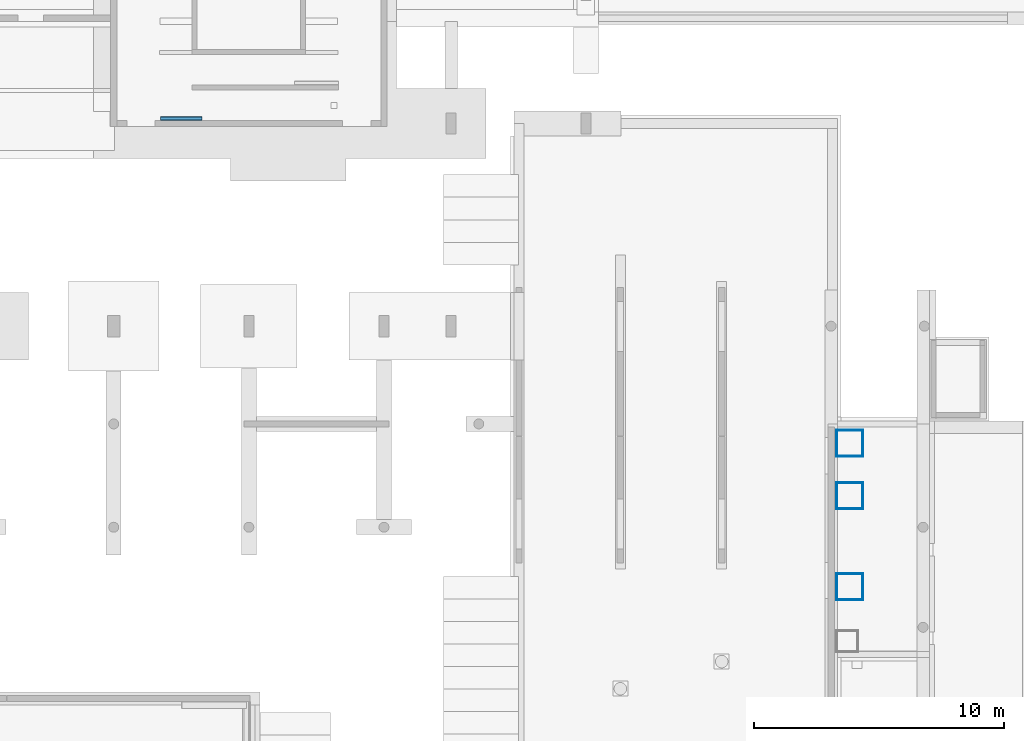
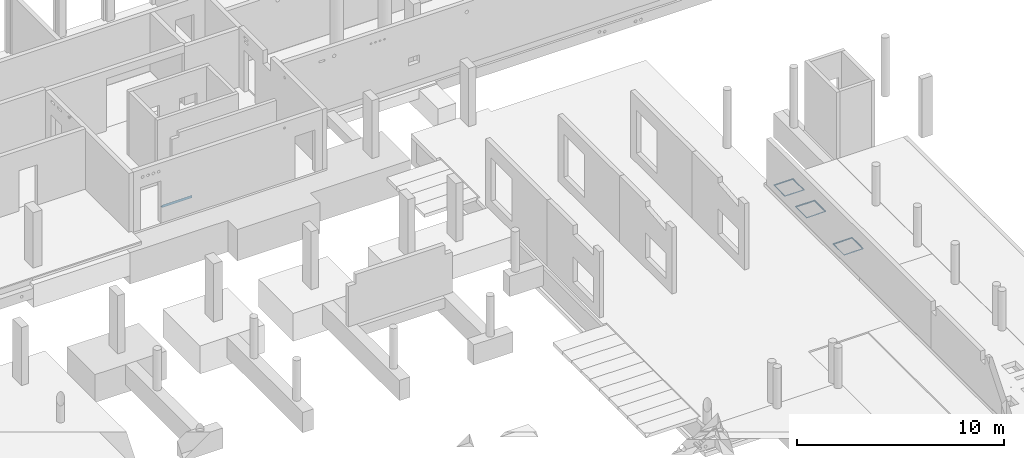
# One storey, part 18 of 60: 13 beams.
"""IFC2X3 building model written with IfcOpenShell, lengths in millimetres."""

from ifc_helpers import new_model, entity, si_unit, converted_unit, derived_unit, direction, frame, frame_2d, origin, place, context, subcontext, project, spatial, polyline, circle_curve, parameter, trimmed, segment, composite_curve, outline, extrude, clip, halfspace, material, type_object, element, save


model = new_model("IFC2X3")

# Units and contexts
model_context = context("Model", 3, precision=0.01, world=origin(), true_north=direction((6.12303176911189e-17, 1.0)))
body_context = subcontext(model_context, "Body", "Model", "MODEL_VIEW")
ifc_project = project(units=[si_unit("LENGTHUNIT", "METRE", prefix="MILLI"), si_unit("AREAUNIT", "SQUARE_METRE"), si_unit("VOLUMEUNIT", "CUBIC_METRE"), converted_unit("PLANEANGLEUNIT", "DEGREE", entity("IfcRatioMeasure", 0.0174532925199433), si_unit("PLANEANGLEUNIT", "RADIAN"), dimensions=[0, 0, 0, 0, 0, 0, 0]), si_unit("MASSUNIT", "GRAM", prefix="KILO"), derived_unit("MASSDENSITYUNIT", [(si_unit("MASSUNIT", "GRAM", prefix="KILO"), 1), (si_unit("LENGTHUNIT", "METRE"), -3)]), si_unit("TIMEUNIT", "SECOND"), si_unit("FREQUENCYUNIT", "HERTZ"), si_unit("THERMODYNAMICTEMPERATUREUNIT", "DEGREE_CELSIUS"), derived_unit("THERMALTRANSMITTANCEUNIT", [(si_unit("MASSUNIT", "GRAM", prefix="KILO"), 1), (si_unit("THERMODYNAMICTEMPERATUREUNIT", "KELVIN"), -1), (si_unit("TIMEUNIT", "SECOND"), -3)]), derived_unit("VOLUMETRICFLOWRATEUNIT", [(si_unit("LENGTHUNIT", "METRE"), 3), (si_unit("TIMEUNIT", "SECOND"), -1)]), si_unit("ELECTRICCURRENTUNIT", "AMPERE"), si_unit("ELECTRICVOLTAGEUNIT", "VOLT"), si_unit("POWERUNIT", "WATT"), si_unit("FORCEUNIT", "NEWTON", prefix="KILO"), si_unit("ILLUMINANCEUNIT", "LUX"), si_unit("LUMINOUSFLUXUNIT", "LUMEN"), si_unit("LUMINOUSINTENSITYUNIT", "CANDELA"), derived_unit("USERDEFINED", [(si_unit("MASSUNIT", "GRAM", prefix="KILO"), -1), (si_unit("LENGTHUNIT", "METRE"), -2), (si_unit("TIMEUNIT", "SECOND"), 3), (si_unit("LUMINOUSFLUXUNIT", "LUMEN"), 1)]), derived_unit("LINEARVELOCITYUNIT", [(si_unit("LENGTHUNIT", "METRE"), 1), (si_unit("TIMEUNIT", "SECOND"), -1)]), si_unit("PRESSUREUNIT", "PASCAL"), derived_unit("USERDEFINED", [(si_unit("LENGTHUNIT", "METRE"), -2), (si_unit("MASSUNIT", "GRAM", prefix="KILO"), 1), (si_unit("TIMEUNIT", "SECOND"), -2)])], contexts=[model_context])

# Site, building, storey
site_placement = place(None, origin())
site = spatial("IfcSite", under=ifc_project, at=site_placement, Name="Default", CompositionType="ELEMENT")
building_placement = place(site_placement, origin())
building = spatial("IfcBuilding", under=site, at=building_placement, Name="niet gebruiken", CompositionType="ELEMENT")
storey_placement = place(building_placement, origin())
storey = spatial("IfcBuildingStorey", under=building, at=storey_placement, Name="00 begane grond", CompositionType="ELEMENT", Elevation=0.0)

# Beams
ifc_material = material(Name="NLRS_h2_staal")
beam_type_1 = type_object("IfcBeamType", Name="NLRS_28.11_SF_WPB_stalen ligger hoekprofiel gelijkzijdig_gen:ligger gelijzijdig hoekprofiel LEQU_150x150x15", PredefinedType="BEAM")
beam_1_placement = place(storey_placement, frame((88272.5032059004, 37148.5000000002, 600.909090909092)))
element("IfcBeam", 1, at=beam_1_placement, inside=storey, type_object=beam_type_1, material=ifc_material, Name="NLRS_28.11_SF_WPB_stalen ligger hoekprofiel gelijkzijdig_gen:ligger gelijzijdig hoekprofiel LEQU_150x150x15", ObjectType="NLRS_28.11_SF_WPB_stalen ligger hoekprofiel gelijkzijdig_gen:ligger gelijzijdig hoekprofiel LEQU_150x150x15", context=body_context, shape_type="SweptSolid", body=[
    extrude(outline(composite_curve([segment(polyline([(-93.3333333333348, -56.6666666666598), (56.6666666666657, -56.6666666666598)]), True, "CONTINUOUS"), segment(polyline([(56.6666666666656, -56.6666666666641), (56.6666666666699, 93.3333333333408)]), True, "CONTINUOUS"), segment(polyline([(56.6666666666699, 93.3333333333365), (49.6666666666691, 93.333333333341)]), True, "CONTINUOUS"), segment(trimmed(circle_curve(frame_2d((49.666666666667, 85.3333333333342), x_axis=(0.0, 1.0)), 7.99999999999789), [parameter(0.0)], [parameter(90.0000000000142)], True, "PARAMETER"), True, "CONTINUOUS"), segment(polyline([(41.6666666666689, 85.3333333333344), (41.6666666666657, -25.666666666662)]), True, "CONTINUOUS"), segment(trimmed(circle_curve(frame_2d((25.6666666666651, -25.6666666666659), x_axis=(1.0, 0.0)), 16.0000000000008), [parameter(270.000000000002)], [parameter(0.0)], True, "PARAMETER"), False, "CONTINUOUS"), segment(polyline([(25.6666666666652, -41.6666666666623), (-85.3333333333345, -41.6666666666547)]), True, "CONTINUOUS"), segment(trimmed(circle_curve(frame_2d((-85.3333333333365, -49.6666666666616), x_axis=(0.0, 1.0)), 7.99999999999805), [parameter(0.0)], [parameter(90.0000000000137)], True, "PARAMETER"), True, "CONTINUOUS"), segment(polyline([(-93.3333333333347, -49.6666666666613), (-93.3333333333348, -56.6666666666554)]), True, "CONTINUOUS")], self_intersect=False)), frame((0.0, 14.1666666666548, 56.6666666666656), z_axis=(1.0, 0.0, 0.0), x_axis=(0.0, 0.0, -1.0)), (0.0, 0.0, 1.0), 1660.0),
])
beam_type_2 = type_object("IfcBeamType", Name="NLRS_28.11_SF_WPB_stalen ligger hoekprofiel gelijkzijdig_gen:ligger gelijzijdig hoekprofiel LEQU_40x40x4", PredefinedType="BEAM")
beam_2_placement = place(storey_placement, frame((115296.2, 19061.0, 0.0), z_axis=(0.0, 0.0, 1.0), x_axis=(0.0, -1.0, 0.0)))
element("IfcBeam", 2, at=beam_2_placement, inside=storey, type_object=beam_type_2, material=ifc_material, Name="NLRS_28.11_SF_WPB_stalen ligger hoekprofiel gelijkzijdig_gen:ligger gelijzijdig hoekprofiel LEQU_40x40x4", ObjectType="NLRS_28.11_SF_WPB_stalen ligger hoekprofiel gelijkzijdig_gen:ligger gelijzijdig hoekprofiel LEQU_40x40x4", context=body_context, shape_type="Clipping", body=[
    clip(clip(extrude(outline(composite_curve([segment(polyline([(-24.8888888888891, -15.1111111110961), (15.1111111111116, -15.1111111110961)]), True, "CONTINUOUS"), segment(polyline([(15.1111111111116, -15.1111111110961), (15.1111111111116, 24.8888888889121)]), True, "CONTINUOUS"), segment(polyline([(15.1111111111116, 24.8888888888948), (14.1111111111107, 24.8888888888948)]), True, "CONTINUOUS"), segment(trimmed(circle_curve(frame_2d((14.1111111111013, 21.8888888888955), x_axis=(0.0, 1.0)), 2.99999999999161), [parameter(0.0)], [parameter(90.0000000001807)], True, "PARAMETER"), True, "CONTINUOUS"), segment(polyline([(11.1111111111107, 21.8888888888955), (11.1111111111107, -5.1111111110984)]), True, "CONTINUOUS"), segment(trimmed(circle_curve(frame_2d((5.11111111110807, -5.1111111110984), x_axis=(1.0, 0.0)), 6.00000000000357), [parameter(270.000000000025)], [parameter(0.0)], True, "PARAMETER"), False, "CONTINUOUS"), segment(polyline([(5.11111111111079, -11.111111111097), (-21.888888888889, -11.111111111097)]), True, "CONTINUOUS"), segment(trimmed(circle_curve(frame_2d((-21.8888888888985, -14.1111111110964), x_axis=(0.0, 1.0)), 2.99999999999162), [parameter(0.0)], [parameter(90.0000000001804)], True, "PARAMETER"), True, "CONTINUOUS"), segment(polyline([(-24.8888888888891, -14.1111111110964), (-24.8888888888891, -15.1111111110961)]), True, "CONTINUOUS")], self_intersect=False)), frame((45.0, 3.91111111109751, -24.8888888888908), z_axis=(1.0, 0.0, 0.0), x_axis=(0.0, 0.0, -1.0)), (0.0, 0.0, 1.0), 1079.99999999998), halfspace(frame((1125.0, -11.2000000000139, 1000.0), z_axis=(0.707106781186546, 0.707106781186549, 0.0), x_axis=(0.707106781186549, -0.707106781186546, 0.0)), False)), halfspace(frame((45.0, -11.1999999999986, 1000.0), z_axis=(-0.707106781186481, 0.707106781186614, 0.0), x_axis=(-0.707106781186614, -0.707106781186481, 0.0)), False)),
])
beam_3_placement = place(storey_placement, frame((116353.8, 19061.0, 0.0), z_axis=(0.0, 0.0, 1.0), x_axis=(0.0, -1.0, 0.0)))
element("IfcBeam", 3, at=beam_3_placement, inside=storey, type_object=beam_type_2, material=ifc_material, Name="NLRS_28.11_SF_WPB_stalen ligger hoekprofiel gelijkzijdig_gen:ligger gelijzijdig hoekprofiel LEQU_40x40x4", ObjectType="NLRS_28.11_SF_WPB_stalen ligger hoekprofiel gelijkzijdig_gen:ligger gelijzijdig hoekprofiel LEQU_40x40x4", context=body_context, shape_type="Clipping", body=[
    clip(clip(extrude(outline(composite_curve([segment(polyline([(14.1111111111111, -24.8888888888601), (15.111111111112, -24.8888888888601)]), True, "CONTINUOUS"), segment(polyline([(15.1111111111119, -24.8888888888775), (15.1111111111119, 15.1111111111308)]), True, "CONTINUOUS"), segment(polyline([(15.111111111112, 15.1111111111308), (-24.8888888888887, 15.1111111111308)]), True, "CONTINUOUS"), segment(polyline([(-24.8888888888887, 15.1111111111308), (-24.8888888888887, 14.111111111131)]), True, "CONTINUOUS"), segment(trimmed(circle_curve(frame_2d((-21.8888888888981, 14.111111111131), x_axis=(-1.0, 0.0)), 2.99999999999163), [parameter(0.0)], [parameter(90.0000000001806)], True, "PARAMETER"), True, "CONTINUOUS"), segment(polyline([(-21.8888888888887, 11.1111111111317), (5.11111111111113, 11.1111111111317)]), True, "CONTINUOUS"), segment(trimmed(circle_curve(frame_2d((5.11111111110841, 5.11111111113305), x_axis=(0.0, 1.0)), 6.00000000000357), [parameter(270.000000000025)], [parameter(0.0)], True, "PARAMETER"), False, "CONTINUOUS"), segment(polyline([(11.1111111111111, 5.11111111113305), (11.1111111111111, -21.8888888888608)]), True, "CONTINUOUS"), segment(trimmed(circle_curve(frame_2d((14.1111111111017, -21.8888888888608), x_axis=(-1.0, 0.0)), 2.99999999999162), [parameter(0.0)], [parameter(90.0000000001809)], True, "PARAMETER"), True, "CONTINUOUS")], self_intersect=False)), frame((45.0, -3.91111111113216, -24.8888888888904), z_axis=(1.0, 0.0, 0.0), x_axis=(0.0, 0.0, -1.0)), (0.0, 0.0, 1.0), 1080.00000000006), halfspace(frame((45.0, 11.1999999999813, 1000.0), z_axis=(-0.707106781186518, -0.707106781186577, 0.0), x_axis=(-0.707106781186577, 0.707106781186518, 0.0)), False)), halfspace(frame((1125.0, 11.1999999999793, 1000.0), z_axis=(0.707106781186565, -0.70710678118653, 0.0), x_axis=(0.70710678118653, 0.707106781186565, 0.0)), False)),
])
beam_4_placement = place(storey_placement, frame((115251.216061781, 19004.7999999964, 0.0)))
element("IfcBeam", 4, at=beam_4_placement, inside=storey, type_object=beam_type_2, material=ifc_material, Name="NLRS_28.11_SF_WPB_stalen ligger hoekprofiel gelijkzijdig_gen:ligger gelijzijdig hoekprofiel LEQU_40x40x4", ObjectType="NLRS_28.11_SF_WPB_stalen ligger hoekprofiel gelijkzijdig_gen:ligger gelijzijdig hoekprofiel LEQU_40x40x4", context=body_context, shape_type="Clipping", body=[
    clip(clip(extrude(outline(composite_curve([segment(polyline([(14.1111111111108, -24.8888888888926), (15.1111111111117, -24.8888888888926)]), True, "CONTINUOUS"), segment(polyline([(15.1111111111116, -24.8888888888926), (15.1111111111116, 15.1111111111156)]), True, "CONTINUOUS"), segment(polyline([(15.1111111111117, 15.1111111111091), (-24.888888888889, 15.1111111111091)]), True, "CONTINUOUS"), segment(polyline([(-24.888888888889, 15.1111111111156), (-24.888888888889, 14.1111111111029)]), True, "CONTINUOUS"), segment(trimmed(circle_curve(frame_2d((-21.8888888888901, 14.111111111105), x_axis=(-1.0, 0.0)), 2.99999999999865), [parameter(0.0)], [parameter(90.00000000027)], True, "PARAMETER"), True, "CONTINUOUS"), segment(polyline([(-21.888888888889, 11.1111111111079), (5.11111111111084, 11.1111111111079)]), True, "CONTINUOUS"), segment(trimmed(circle_curve(frame_2d((5.11111111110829, 5.1111111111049), x_axis=(0.0, 1.0)), 6.00000000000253), [parameter(270.000000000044)], [parameter(0.0)], True, "PARAMETER"), False, "CONTINUOUS"), segment(polyline([(11.1111111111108, 5.11111111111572), (11.1111111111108, -21.8888888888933)]), True, "CONTINUOUS"), segment(trimmed(circle_curve(frame_2d((14.1111111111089, -21.8888888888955), x_axis=(-1.0, 0.0)), 2.99999999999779), [parameter(0.0)], [parameter(90.0000000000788)], True, "PARAMETER"), True, "CONTINUOUS")], self_intersect=False)), frame((33.7839382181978, -3.91111111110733, -24.8888888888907), z_axis=(1.0, 0.0, 0.0), x_axis=(0.0, 0.0, -1.0)), (0.0, 0.0, 1.0), 1079.99999999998), halfspace(frame((33.7839382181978, 11.1999999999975, 1000.0), z_axis=(-0.707106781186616, -0.707106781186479, 0.0), x_axis=(-0.707106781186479, 0.707106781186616, 0.0)), False)), halfspace(frame((1113.78393821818, 11.2000000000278, 1000.0), z_axis=(0.707106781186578, -0.707106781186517, 0.0), x_axis=(0.707106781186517, 0.707106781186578, 0.0)), False)),
])
beam_5_placement = place(storey_placement, frame((115251.216061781, 17947.1999999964, 0.0)))
element("IfcBeam", 5, at=beam_5_placement, inside=storey, type_object=beam_type_2, material=ifc_material, Name="NLRS_28.11_SF_WPB_stalen ligger hoekprofiel gelijkzijdig_gen:ligger gelijzijdig hoekprofiel LEQU_40x40x4", ObjectType="NLRS_28.11_SF_WPB_stalen ligger hoekprofiel gelijkzijdig_gen:ligger gelijzijdig hoekprofiel LEQU_40x40x4", context=body_context, shape_type="Clipping", body=[
    clip(clip(extrude(outline(composite_curve([segment(polyline([(-24.888888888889, -15.1111111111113), (15.1111111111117, -15.1111111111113)]), True, "CONTINUOUS"), segment(polyline([(15.1111111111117, -15.1111111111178), (15.1111111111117, 24.8888888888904)]), True, "CONTINUOUS"), segment(polyline([(15.1111111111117, 24.8888888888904), (14.1111111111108, 24.8888888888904)]), True, "CONTINUOUS"), segment(trimmed(circle_curve(frame_2d((14.1111111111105, 21.8888888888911), x_axis=(0.0, 1.0)), 2.99999999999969), [parameter(0.0)], [parameter(90.0000000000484)], True, "PARAMETER"), True, "CONTINUOUS"), segment(polyline([(11.1111111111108, 21.8888888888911), (11.1111111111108, -5.11111111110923)]), True, "CONTINUOUS"), segment(trimmed(circle_curve(frame_2d((5.11111111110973, -5.11111111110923), x_axis=(1.0, 0.0)), 6.00000000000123), [parameter(269.99999999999)], [parameter(0.0)], True, "PARAMETER"), False, "CONTINUOUS"), segment(polyline([(5.11111111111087, -11.11111111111), (-21.8888888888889, -11.11111111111)]), True, "CONTINUOUS"), segment(trimmed(circle_curve(frame_2d((-21.8888888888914, -14.1111111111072), x_axis=(0.0, 1.0)), 2.99999999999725), [parameter(0.0)], [parameter(90.0000000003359)], True, "PARAMETER"), True, "CONTINUOUS"), segment(polyline([(-24.888888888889, -14.1111111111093), (-24.888888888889, -15.1111111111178)]), True, "CONTINUOUS")], self_intersect=False)), frame((33.7839382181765, 3.9111111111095, -24.8888888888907), z_axis=(1.0, 0.0, 0.0), x_axis=(0.0, 0.0, -1.0)), (0.0, 0.0, 1.0), 1080.00000000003), halfspace(frame((1113.78393821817, -11.1999999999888, 1000.0), z_axis=(0.707106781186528, 0.707106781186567, 0.0), x_axis=(0.707106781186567, -0.707106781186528, 0.0)), False)), halfspace(frame((33.7839382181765, -11.1999999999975, 1000.0), z_axis=(-0.707106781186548, 0.707106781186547, 0.0), x_axis=(-0.707106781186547, -0.707106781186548, 0.0)), False)),
])
beam_6_placement = place(storey_placement, frame((115296.2, 22686.0, 0.0), z_axis=(0.0, 0.0, 1.0), x_axis=(0.0, -1.0, 0.0)))
element("IfcBeam", 6, at=beam_6_placement, inside=storey, type_object=beam_type_2, material=ifc_material, Name="NLRS_28.11_SF_WPB_stalen ligger hoekprofiel gelijkzijdig_gen:ligger gelijzijdig hoekprofiel LEQU_40x40x4", ObjectType="NLRS_28.11_SF_WPB_stalen ligger hoekprofiel gelijkzijdig_gen:ligger gelijzijdig hoekprofiel LEQU_40x40x4", context=body_context, shape_type="Clipping", body=[
    clip(clip(extrude(outline(composite_curve([segment(polyline([(-24.8888888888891, -15.1111111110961), (15.1111111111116, -15.1111111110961)]), True, "CONTINUOUS"), segment(polyline([(15.1111111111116, -15.1111111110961), (15.1111111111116, 24.8888888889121)]), True, "CONTINUOUS"), segment(polyline([(15.1111111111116, 24.8888888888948), (14.1111111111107, 24.8888888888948)]), True, "CONTINUOUS"), segment(trimmed(circle_curve(frame_2d((14.1111111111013, 21.8888888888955), x_axis=(0.0, 1.0)), 2.99999999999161), [parameter(0.0)], [parameter(90.0000000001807)], True, "PARAMETER"), True, "CONTINUOUS"), segment(polyline([(11.1111111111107, 21.8888888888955), (11.1111111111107, -5.1111111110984)]), True, "CONTINUOUS"), segment(trimmed(circle_curve(frame_2d((5.11111111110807, -5.1111111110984), x_axis=(1.0, 0.0)), 6.00000000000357), [parameter(270.000000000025)], [parameter(0.0)], True, "PARAMETER"), False, "CONTINUOUS"), segment(polyline([(5.11111111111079, -11.111111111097), (-21.888888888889, -11.111111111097)]), True, "CONTINUOUS"), segment(trimmed(circle_curve(frame_2d((-21.8888888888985, -14.1111111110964), x_axis=(0.0, 1.0)), 2.99999999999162), [parameter(0.0)], [parameter(90.0000000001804)], True, "PARAMETER"), True, "CONTINUOUS"), segment(polyline([(-24.8888888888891, -14.1111111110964), (-24.8888888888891, -15.1111111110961)]), True, "CONTINUOUS")], self_intersect=False)), frame((45.0, 3.91111111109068, -24.8888888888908), z_axis=(1.0, 0.0, 0.0), x_axis=(0.0, 0.0, -1.0)), (0.0, 0.0, 1.0), 1079.99999999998), halfspace(frame((1125.0, -11.2000000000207, 1000.0), z_axis=(0.707106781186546, 0.707106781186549, 0.0), x_axis=(0.707106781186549, -0.707106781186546, 0.0)), False)), halfspace(frame((45.0, -11.2000000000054, 1000.0), z_axis=(-0.707106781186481, 0.707106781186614, 0.0), x_axis=(-0.707106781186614, -0.707106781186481, 0.0)), False)),
])
beam_7_placement = place(storey_placement, frame((116353.8, 22686.0, 0.0), z_axis=(0.0, 0.0, 1.0), x_axis=(0.0, -1.0, 0.0)))
element("IfcBeam", 7, at=beam_7_placement, inside=storey, type_object=beam_type_2, material=ifc_material, Name="NLRS_28.11_SF_WPB_stalen ligger hoekprofiel gelijkzijdig_gen:ligger gelijzijdig hoekprofiel LEQU_40x40x4", ObjectType="NLRS_28.11_SF_WPB_stalen ligger hoekprofiel gelijkzijdig_gen:ligger gelijzijdig hoekprofiel LEQU_40x40x4", context=body_context, shape_type="Clipping", body=[
    clip(clip(extrude(outline(composite_curve([segment(polyline([(14.1111111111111, -24.8888888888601), (15.111111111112, -24.8888888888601)]), True, "CONTINUOUS"), segment(polyline([(15.1111111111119, -24.8888888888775), (15.1111111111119, 15.1111111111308)]), True, "CONTINUOUS"), segment(polyline([(15.111111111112, 15.1111111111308), (-24.8888888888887, 15.1111111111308)]), True, "CONTINUOUS"), segment(polyline([(-24.8888888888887, 15.1111111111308), (-24.8888888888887, 14.111111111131)]), True, "CONTINUOUS"), segment(trimmed(circle_curve(frame_2d((-21.8888888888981, 14.111111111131), x_axis=(-1.0, 0.0)), 2.99999999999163), [parameter(0.0)], [parameter(90.0000000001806)], True, "PARAMETER"), True, "CONTINUOUS"), segment(polyline([(-21.8888888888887, 11.1111111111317), (5.11111111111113, 11.1111111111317)]), True, "CONTINUOUS"), segment(trimmed(circle_curve(frame_2d((5.11111111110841, 5.11111111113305), x_axis=(0.0, 1.0)), 6.00000000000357), [parameter(270.000000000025)], [parameter(0.0)], True, "PARAMETER"), False, "CONTINUOUS"), segment(polyline([(11.1111111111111, 5.11111111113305), (11.1111111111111, -21.8888888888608)]), True, "CONTINUOUS"), segment(trimmed(circle_curve(frame_2d((14.1111111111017, -21.8888888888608), x_axis=(-1.0, 0.0)), 2.99999999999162), [parameter(0.0)], [parameter(90.0000000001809)], True, "PARAMETER"), True, "CONTINUOUS")], self_intersect=False)), frame((45.0, -3.91111111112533, -24.8888888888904), z_axis=(1.0, 0.0, 0.0), x_axis=(0.0, 0.0, -1.0)), (0.0, 0.0, 1.0), 1080.00000000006), halfspace(frame((45.0, 11.1999999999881, 1000.0), z_axis=(-0.707106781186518, -0.707106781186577, 0.0), x_axis=(-0.707106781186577, 0.707106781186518, 0.0)), False)), halfspace(frame((1125.0, 11.1999999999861, 1000.0), z_axis=(0.707106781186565, -0.70710678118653, 0.0), x_axis=(0.70710678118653, 0.707106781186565, 0.0)), False)),
])
beam_8_placement = place(storey_placement, frame((115251.216061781, 22629.7999999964, 0.0)))
element("IfcBeam", 8, at=beam_8_placement, inside=storey, type_object=beam_type_2, material=ifc_material, Name="NLRS_28.11_SF_WPB_stalen ligger hoekprofiel gelijkzijdig_gen:ligger gelijzijdig hoekprofiel LEQU_40x40x4", ObjectType="NLRS_28.11_SF_WPB_stalen ligger hoekprofiel gelijkzijdig_gen:ligger gelijzijdig hoekprofiel LEQU_40x40x4", context=body_context, shape_type="Clipping", body=[
    clip(clip(extrude(outline(composite_curve([segment(polyline([(14.1111111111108, -24.8888888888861), (15.1111111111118, -24.8888888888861)]), True, "CONTINUOUS"), segment(polyline([(15.1111111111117, -24.8888888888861), (15.1111111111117, 15.1111111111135)]), True, "CONTINUOUS"), segment(polyline([(15.1111111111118, 15.1111111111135), (-24.8888888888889, 15.1111111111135)]), True, "CONTINUOUS"), segment(polyline([(-24.8888888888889, 15.1111111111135), (-24.8888888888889, 14.1111111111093)]), True, "CONTINUOUS"), segment(trimmed(circle_curve(frame_2d((-21.8888888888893, 14.1111111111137), x_axis=(-1.0, 0.0)), 2.99999999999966), [parameter(0.0)], [parameter(90.0000000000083)], True, "PARAMETER"), True, "CONTINUOUS"), segment(polyline([(-21.8888888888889, 11.11111111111), (5.11111111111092, 11.11111111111)]), True, "CONTINUOUS"), segment(trimmed(circle_curve(frame_2d((5.11111111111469, 5.11111111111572), x_axis=(0.0, 1.0)), 5.9999999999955), [parameter(269.999999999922)], [parameter(0.0)], True, "PARAMETER"), False, "CONTINUOUS"), segment(polyline([(11.1111111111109, 5.11111111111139), (11.1111111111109, -21.8888888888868)]), True, "CONTINUOUS"), segment(trimmed(circle_curve(frame_2d((14.1111111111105, -21.8888888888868), x_axis=(-1.0, 0.0)), 2.99999999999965), [parameter(0.0)], [parameter(90.0000000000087)], True, "PARAMETER"), True, "CONTINUOUS")], self_intersect=False)), frame((33.7839382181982, -3.91111111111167, -24.8888888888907), z_axis=(1.0, 0.0, 0.0), x_axis=(0.0, 0.0, -1.0)), (0.0, 0.0, 1.0), 1079.99999999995), halfspace(frame((1113.78393821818, 11.2000000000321, 1000.0), z_axis=(0.707106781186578, -0.707106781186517, 0.0), x_axis=(0.707106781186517, 0.707106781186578, 0.0)), False)), halfspace(frame((33.7839382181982, 11.2000000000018, 1000.0), z_axis=(-0.707106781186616, -0.707106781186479, 0.0), x_axis=(-0.707106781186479, 0.707106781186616, 0.0)), False)),
])
beam_9_placement = place(storey_placement, frame((115251.216061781, 21572.1999999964, 0.0)))
element("IfcBeam", 9, at=beam_9_placement, inside=storey, type_object=beam_type_2, material=ifc_material, Name="NLRS_28.11_SF_WPB_stalen ligger hoekprofiel gelijkzijdig_gen:ligger gelijzijdig hoekprofiel LEQU_40x40x4", ObjectType="NLRS_28.11_SF_WPB_stalen ligger hoekprofiel gelijkzijdig_gen:ligger gelijzijdig hoekprofiel LEQU_40x40x4", context=body_context, shape_type="Clipping", body=[
    clip(clip(extrude(outline(composite_curve([segment(polyline([(-24.8888888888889, -15.1111111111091), (15.1111111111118, -15.1111111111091)]), True, "CONTINUOUS"), segment(polyline([(15.1111111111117, -15.1111111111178), (15.1111111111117, 24.8888888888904)]), True, "CONTINUOUS"), segment(polyline([(15.1111111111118, 24.8888888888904), (14.1111111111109, 24.8888888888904)]), True, "CONTINUOUS"), segment(trimmed(circle_curve(frame_2d((14.1111111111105, 21.8888888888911), x_axis=(0.0, 1.0)), 2.99999999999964), [parameter(0.0)], [parameter(90.0000000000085)], True, "PARAMETER"), True, "CONTINUOUS"), segment(polyline([(11.1111111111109, 21.8888888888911), (11.1111111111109, -5.11111111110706)]), True, "CONTINUOUS"), segment(trimmed(circle_curve(frame_2d((5.11111111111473, -5.11111111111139), x_axis=(1.0, 0.0)), 5.9999999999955), [parameter(269.999999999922)], [parameter(0.0)], True, "PARAMETER"), False, "CONTINUOUS"), segment(polyline([(5.11111111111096, -11.1111111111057), (-21.8888888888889, -11.1111111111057)]), True, "CONTINUOUS"), segment(trimmed(circle_curve(frame_2d((-21.8888888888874, -14.1111111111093), x_axis=(0.0, 1.0)), 3.00000000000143), [parameter(0.0)], [parameter(90.0000000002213)], True, "PARAMETER"), True, "CONTINUOUS"), segment(polyline([(-24.8888888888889, -14.1111111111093), (-24.8888888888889, -15.1111111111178)]), True, "CONTINUOUS")], self_intersect=False)), frame((33.7839382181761, 3.91111111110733, -24.8888888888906), z_axis=(1.0, 0.0, 0.0), x_axis=(0.0, 0.0, -1.0)), (0.0, 0.0, 1.0), 1080.00000000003), halfspace(frame((1113.78393821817, -11.1999999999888, 1000.0), z_axis=(0.707106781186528, 0.707106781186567, 0.0), x_axis=(0.707106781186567, -0.707106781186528, 0.0)), False)), halfspace(frame((33.7839382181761, -11.1999999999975, 1000.0), z_axis=(-0.707106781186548, 0.707106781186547, 0.0), x_axis=(-0.707106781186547, -0.707106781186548, 0.0)), False)),
])
beam_10_placement = place(storey_placement, frame((115296.2, 24786.0, 0.0), z_axis=(0.0, 0.0, 1.0), x_axis=(0.0, -1.0, 0.0)))
element("IfcBeam", 10, at=beam_10_placement, inside=storey, type_object=beam_type_2, material=ifc_material, Name="NLRS_28.11_SF_WPB_stalen ligger hoekprofiel gelijkzijdig_gen:ligger gelijzijdig hoekprofiel LEQU_40x40x4", ObjectType="NLRS_28.11_SF_WPB_stalen ligger hoekprofiel gelijkzijdig_gen:ligger gelijzijdig hoekprofiel LEQU_40x40x4", context=body_context, shape_type="Clipping", body=[
    clip(clip(extrude(outline(composite_curve([segment(polyline([(-24.8888888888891, -15.1111111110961), (15.1111111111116, -15.1111111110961)]), True, "CONTINUOUS"), segment(polyline([(15.1111111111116, -15.1111111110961), (15.1111111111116, 24.8888888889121)]), True, "CONTINUOUS"), segment(polyline([(15.1111111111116, 24.8888888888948), (14.1111111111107, 24.8888888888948)]), True, "CONTINUOUS"), segment(trimmed(circle_curve(frame_2d((14.1111111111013, 21.8888888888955), x_axis=(0.0, 1.0)), 2.99999999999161), [parameter(0.0)], [parameter(90.0000000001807)], True, "PARAMETER"), True, "CONTINUOUS"), segment(polyline([(11.1111111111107, 21.8888888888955), (11.1111111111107, -5.1111111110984)]), True, "CONTINUOUS"), segment(trimmed(circle_curve(frame_2d((5.11111111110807, -5.1111111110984), x_axis=(1.0, 0.0)), 6.00000000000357), [parameter(270.000000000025)], [parameter(0.0)], True, "PARAMETER"), False, "CONTINUOUS"), segment(polyline([(5.11111111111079, -11.111111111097), (-21.888888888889, -11.111111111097)]), True, "CONTINUOUS"), segment(trimmed(circle_curve(frame_2d((-21.8888888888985, -14.1111111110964), x_axis=(0.0, 1.0)), 2.99999999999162), [parameter(0.0)], [parameter(90.0000000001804)], True, "PARAMETER"), True, "CONTINUOUS"), segment(polyline([(-24.8888888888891, -14.1111111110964), (-24.8888888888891, -15.1111111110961)]), True, "CONTINUOUS")], self_intersect=False)), frame((45.0, 3.91111111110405, -24.8888888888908), z_axis=(1.0, 0.0, 0.0), x_axis=(0.0, 0.0, -1.0)), (0.0, 0.0, 1.0), 1079.99999999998), halfspace(frame((45.0, -11.1999999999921, 1000.0), z_axis=(-0.707106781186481, 0.707106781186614, 0.0), x_axis=(-0.707106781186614, -0.707106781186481, 0.0)), False)), halfspace(frame((1125.0, -11.2000000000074, 1000.0), z_axis=(0.707106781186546, 0.707106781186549, 0.0), x_axis=(0.707106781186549, -0.707106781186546, 0.0)), False)),
])
beam_11_placement = place(storey_placement, frame((116353.8, 24786.0, 0.0), z_axis=(0.0, 0.0, 1.0), x_axis=(0.0, -1.0, 0.0)))
element("IfcBeam", 11, at=beam_11_placement, inside=storey, type_object=beam_type_2, material=ifc_material, Name="NLRS_28.11_SF_WPB_stalen ligger hoekprofiel gelijkzijdig_gen:ligger gelijzijdig hoekprofiel LEQU_40x40x4", ObjectType="NLRS_28.11_SF_WPB_stalen ligger hoekprofiel gelijkzijdig_gen:ligger gelijzijdig hoekprofiel LEQU_40x40x4", context=body_context, shape_type="Clipping", body=[
    clip(clip(extrude(outline(composite_curve([segment(polyline([(14.1111111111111, -24.8888888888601), (15.111111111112, -24.8888888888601)]), True, "CONTINUOUS"), segment(polyline([(15.1111111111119, -24.8888888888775), (15.1111111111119, 15.1111111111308)]), True, "CONTINUOUS"), segment(polyline([(15.111111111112, 15.1111111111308), (-24.8888888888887, 15.1111111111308)]), True, "CONTINUOUS"), segment(polyline([(-24.8888888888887, 15.1111111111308), (-24.8888888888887, 14.111111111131)]), True, "CONTINUOUS"), segment(trimmed(circle_curve(frame_2d((-21.8888888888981, 14.111111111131), x_axis=(-1.0, 0.0)), 2.99999999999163), [parameter(0.0)], [parameter(90.0000000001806)], True, "PARAMETER"), True, "CONTINUOUS"), segment(polyline([(-21.8888888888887, 11.1111111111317), (5.11111111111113, 11.1111111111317)]), True, "CONTINUOUS"), segment(trimmed(circle_curve(frame_2d((5.11111111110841, 5.11111111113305), x_axis=(0.0, 1.0)), 6.00000000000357), [parameter(270.000000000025)], [parameter(0.0)], True, "PARAMETER"), False, "CONTINUOUS"), segment(polyline([(11.1111111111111, 5.11111111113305), (11.1111111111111, -21.8888888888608)]), True, "CONTINUOUS"), segment(trimmed(circle_curve(frame_2d((14.1111111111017, -21.8888888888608), x_axis=(-1.0, 0.0)), 2.99999999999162), [parameter(0.0)], [parameter(90.0000000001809)], True, "PARAMETER"), True, "CONTINUOUS")], self_intersect=False)), frame((45.0, -3.9111111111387, -24.8888888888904), z_axis=(1.0, 0.0, 0.0), x_axis=(0.0, 0.0, -1.0)), (0.0, 0.0, 1.0), 1080.00000000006), halfspace(frame((1125.0, 11.1999999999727, 1000.0), z_axis=(0.707106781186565, -0.70710678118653, 0.0), x_axis=(0.70710678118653, 0.707106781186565, 0.0)), False)), halfspace(frame((45.0, 11.1999999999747, 1000.0), z_axis=(-0.707106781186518, -0.707106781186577, 0.0), x_axis=(-0.707106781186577, 0.707106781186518, 0.0)), False)),
])
beam_12_placement = place(storey_placement, frame((115251.216061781, 24729.7999999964, 0.0)))
element("IfcBeam", 12, at=beam_12_placement, inside=storey, type_object=beam_type_2, material=ifc_material, Name="NLRS_28.11_SF_WPB_stalen ligger hoekprofiel gelijkzijdig_gen:ligger gelijzijdig hoekprofiel LEQU_40x40x4", ObjectType="NLRS_28.11_SF_WPB_stalen ligger hoekprofiel gelijkzijdig_gen:ligger gelijzijdig hoekprofiel LEQU_40x40x4", context=body_context, shape_type="Clipping", body=[
    clip(clip(extrude(outline(composite_curve([segment(polyline([(14.1111111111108, -24.8888888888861), (15.1111111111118, -24.8888888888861)]), True, "CONTINUOUS"), segment(polyline([(15.1111111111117, -24.8888888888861), (15.1111111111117, 15.1111111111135)]), True, "CONTINUOUS"), segment(polyline([(15.1111111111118, 15.1111111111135), (-24.8888888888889, 15.1111111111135)]), True, "CONTINUOUS"), segment(polyline([(-24.8888888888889, 15.1111111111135), (-24.8888888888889, 14.1111111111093)]), True, "CONTINUOUS"), segment(trimmed(circle_curve(frame_2d((-21.8888888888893, 14.1111111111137), x_axis=(-1.0, 0.0)), 2.99999999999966), [parameter(0.0)], [parameter(90.0000000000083)], True, "PARAMETER"), True, "CONTINUOUS"), segment(polyline([(-21.8888888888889, 11.11111111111), (5.11111111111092, 11.11111111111)]), True, "CONTINUOUS"), segment(trimmed(circle_curve(frame_2d((5.11111111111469, 5.11111111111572), x_axis=(0.0, 1.0)), 5.9999999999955), [parameter(269.999999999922)], [parameter(0.0)], True, "PARAMETER"), False, "CONTINUOUS"), segment(polyline([(11.1111111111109, 5.11111111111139), (11.1111111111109, -21.8888888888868)]), True, "CONTINUOUS"), segment(trimmed(circle_curve(frame_2d((14.1111111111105, -21.8888888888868), x_axis=(-1.0, 0.0)), 2.99999999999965), [parameter(0.0)], [parameter(90.0000000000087)], True, "PARAMETER"), True, "CONTINUOUS")], self_intersect=False)), frame((33.7839382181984, -3.91111111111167, -24.8888888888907), z_axis=(1.0, 0.0, 0.0), x_axis=(0.0, 0.0, -1.0)), (0.0, 0.0, 1.0), 1079.99999999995), halfspace(frame((1113.78393821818, 11.2000000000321, 1000.0), z_axis=(0.707106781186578, -0.707106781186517, 0.0), x_axis=(0.707106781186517, 0.707106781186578, 0.0)), False)), halfspace(frame((33.7839382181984, 11.2000000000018, 1000.0), z_axis=(-0.707106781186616, -0.707106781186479, 0.0), x_axis=(-0.707106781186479, 0.707106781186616, 0.0)), False)),
])
beam_13_placement = place(storey_placement, frame((115251.216061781, 23672.1999999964, 0.0)))
element("IfcBeam", 13, at=beam_13_placement, inside=storey, type_object=beam_type_2, material=ifc_material, Name="NLRS_28.11_SF_WPB_stalen ligger hoekprofiel gelijkzijdig_gen:ligger gelijzijdig hoekprofiel LEQU_40x40x4", ObjectType="NLRS_28.11_SF_WPB_stalen ligger hoekprofiel gelijkzijdig_gen:ligger gelijzijdig hoekprofiel LEQU_40x40x4", context=body_context, shape_type="Clipping", body=[
    clip(clip(extrude(outline(composite_curve([segment(polyline([(-24.8888888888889, -15.1111111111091), (15.1111111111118, -15.1111111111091)]), True, "CONTINUOUS"), segment(polyline([(15.1111111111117, -15.1111111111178), (15.1111111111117, 24.8888888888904)]), True, "CONTINUOUS"), segment(polyline([(15.1111111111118, 24.8888888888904), (14.1111111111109, 24.8888888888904)]), True, "CONTINUOUS"), segment(trimmed(circle_curve(frame_2d((14.1111111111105, 21.8888888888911), x_axis=(0.0, 1.0)), 2.99999999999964), [parameter(0.0)], [parameter(90.0000000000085)], True, "PARAMETER"), True, "CONTINUOUS"), segment(polyline([(11.1111111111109, 21.8888888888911), (11.1111111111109, -5.11111111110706)]), True, "CONTINUOUS"), segment(trimmed(circle_curve(frame_2d((5.11111111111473, -5.11111111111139), x_axis=(1.0, 0.0)), 5.9999999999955), [parameter(269.999999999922)], [parameter(0.0)], True, "PARAMETER"), False, "CONTINUOUS"), segment(polyline([(5.11111111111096, -11.1111111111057), (-21.8888888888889, -11.1111111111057)]), True, "CONTINUOUS"), segment(trimmed(circle_curve(frame_2d((-21.8888888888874, -14.1111111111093), x_axis=(0.0, 1.0)), 3.00000000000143), [parameter(0.0)], [parameter(90.0000000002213)], True, "PARAMETER"), True, "CONTINUOUS"), segment(polyline([(-24.8888888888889, -14.1111111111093), (-24.8888888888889, -15.1111111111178)]), True, "CONTINUOUS")], self_intersect=False)), frame((33.7839382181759, 3.91111111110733, -24.8888888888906), z_axis=(1.0, 0.0, 0.0), x_axis=(0.0, 0.0, -1.0)), (0.0, 0.0, 1.0), 1080.00000000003), halfspace(frame((1113.78393821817, -11.1999999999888, 1000.0), z_axis=(0.707106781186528, 0.707106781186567, 0.0), x_axis=(0.707106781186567, -0.707106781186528, 0.0)), False)), halfspace(frame((33.7839382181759, -11.1999999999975, 1000.0), z_axis=(-0.707106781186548, 0.707106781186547, 0.0), x_axis=(-0.707106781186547, -0.707106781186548, 0.0)), False)),
])

save(model, "model.ifc")
